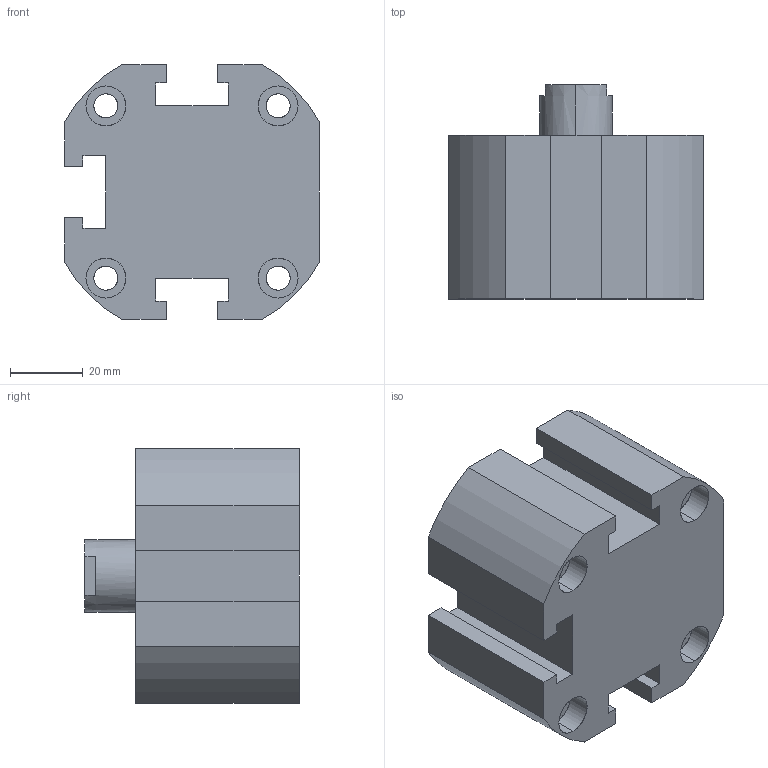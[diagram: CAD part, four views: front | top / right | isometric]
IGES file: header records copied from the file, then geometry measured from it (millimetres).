
Start section: SolidWorks IGES file using analytic representation for surfaces
Global section: file name: C:\Users\Toshiba\Desktop\XC#0-50D-10.IGS; native system: SolidWorks 2014; preprocessor: SolidWorks 2014; author: Toshiba; date: 160523.150736; units: millimetre
Bounding box: 70 x 59 x 70 mm (x, y, z)
Surface area: 29764.6 mm2 (no closed solid volume)
Topology: 0 solids, 0 shells, 107 faces, 1922 edges, 1918 vertices
Faces by surface type: revolution 58, bspline 49
